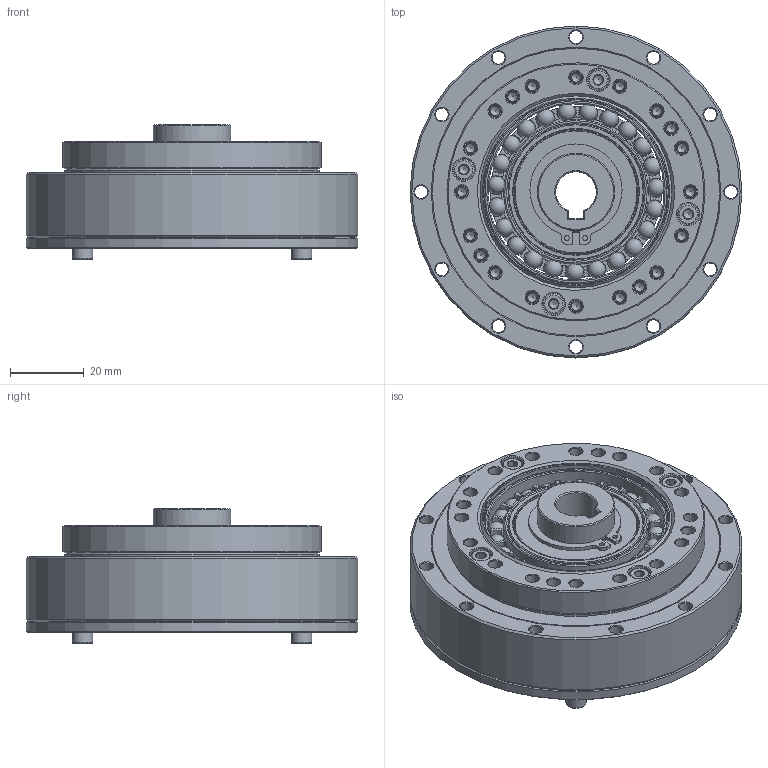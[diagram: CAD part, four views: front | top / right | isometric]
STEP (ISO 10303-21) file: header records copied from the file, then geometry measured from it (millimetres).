
FILE_DESCRIPTION(/* description */ (''),/* implementation_level */ '2;1');
FILE_NAME(/* name */ 'LHG-20-XX-U-II-φ11.stp',/* time_stamp */ '2023-07-08T16:11:14+08:00',/* author */ (''),/* organization */ (''),/* preprocessor_version */ 'ST-DEVELOPER v16.7',/* originating_system */ 'SIEMENS PLM Software NX 12.0',/* authorisation */ '');
FILE_SCHEMA (('AUTOMOTIVE_DESIGN { 1 0 10303 214 3 1 1 1 }'));
Length unit declared in the file: millimetre
Products named in the file (17): EB375007-20KC-46; EB375007-20KE-01; TC-69x78x5; O-75x1.5; O-55x0.5; GB-T70.1-2000,M3x8; GB-T70.1-2000,M3x10; 轴用弹性挡圈φ21; 铜垫圈21.5x33.5x1; CSG-20-00-02; CSG-20-00-01-K11; CS-20-XX-03; 柔轮LHT-20; 刚轮LHT-20; EB375007-20KE; 交叉轴承LHT-20; LHG-20-XX-U-II-φ11
Assembly tree (22 placements, depth 3):
  LHG-20-XX-U-II-φ11
    交叉轴承LHT-20
      TC-69x78x5
    刚轮LHT-20
    柔轮LHT-20
    EB375007-20KE
      EB375007-20KE-01
      EB375007-20KC-46
    CS-20-XX-03
    CSG-20-00-01-K11
    CSG-20-00-02
    铜垫圈21.5x33.5x1
    轴用弹性挡圈φ21
    GB-T70.1-2000,M3x10  x4
    GB-T70.1-2000,M3x8  x4
    O-55x0.5
    O-75x1.5
Bounding box: 90 x 90 x 36.5 mm (x, y, z)
Volume: 101070.7 mm3; surface area: 85002.7 mm2
Topology: 46 solids, 46 shells, 952 faces, 2286 edges, 1407 vertices
Faces by surface type: plane 320, cone 288, cylinder 229, torus 90, sphere 23, revolution 2
Full cylindrical faces by diameter (mm): 1.4 x2, 2.5 x32, 2.874 x8, 3.5 x56, 5.5 x8, 6 x4, 20 x1, 21 x2, 21.5 x1, 22 x2, 33.5 x1, 34 x1, 35 x2, 37 x2, 39.25 x2, 40.64 x1, 44 x1, 46.36 x1, 47.79 x2, 50 x2, 50.71 x1, 51.865 x1, 52.063 x1, 55 x2, 56.4 x1, 63.3 x1, 68.6 x1, 69 x2, 70 x2, 70.1 x2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
Entity records: 22412 total; most frequent: CARTESIAN_POINT 4985, DIRECTION 3708, ORIENTED_EDGE 2766, AXIS2_PLACEMENT_3D 1658, EDGE_CURVE 1383, EDGE_LOOP 1320, VERTEX_POINT 1122, FACE_BOUND 1057
